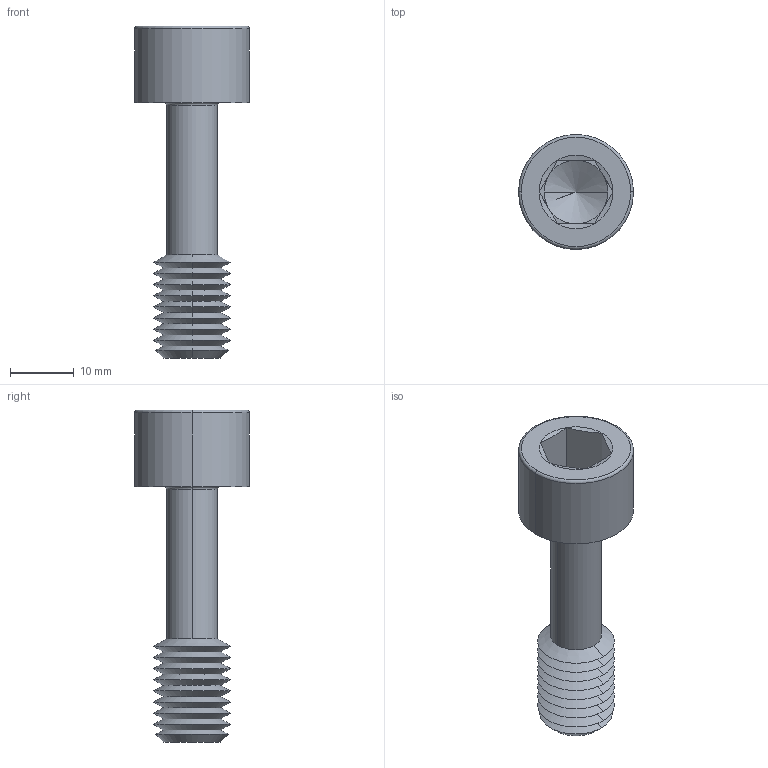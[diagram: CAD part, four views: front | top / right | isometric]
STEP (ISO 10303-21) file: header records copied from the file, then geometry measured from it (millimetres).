
FILE_DESCRIPTION (( 'STEP AP203' ), '1' );
FILE_NAME ('P0154.120-040-BL.step', '2024-06-17T11:36:26', ( '' ), ( '' ), 'SwSTEP 2.0', 'SolidWorks 2019', '' );
FILE_SCHEMA (( 'CONFIG_CONTROL_DESIGN' ));
Length unit declared in the file: millimetre
Products named in the file (1): P0154.120-040-BL
Bounding box: 18 x 18 x 52 mm (x, y, z)
Volume: 4693.7 mm3; surface area: 3174 mm2
Topology: 1 solids, 1 shells, 67 faces, 136 edges, 71 vertices
Faces by surface type: cone 44, plane 15, torus 4, cylinder 4
Entity records: 1791 total; most frequent: DIRECTION 332, CARTESIAN_POINT 303, ORIENTED_EDGE 268, AXIS2_PLACEMENT_3D 136, EDGE_CURVE 134, VERTEX_POINT 71, EDGE_LOOP 69, CIRCLE 68
